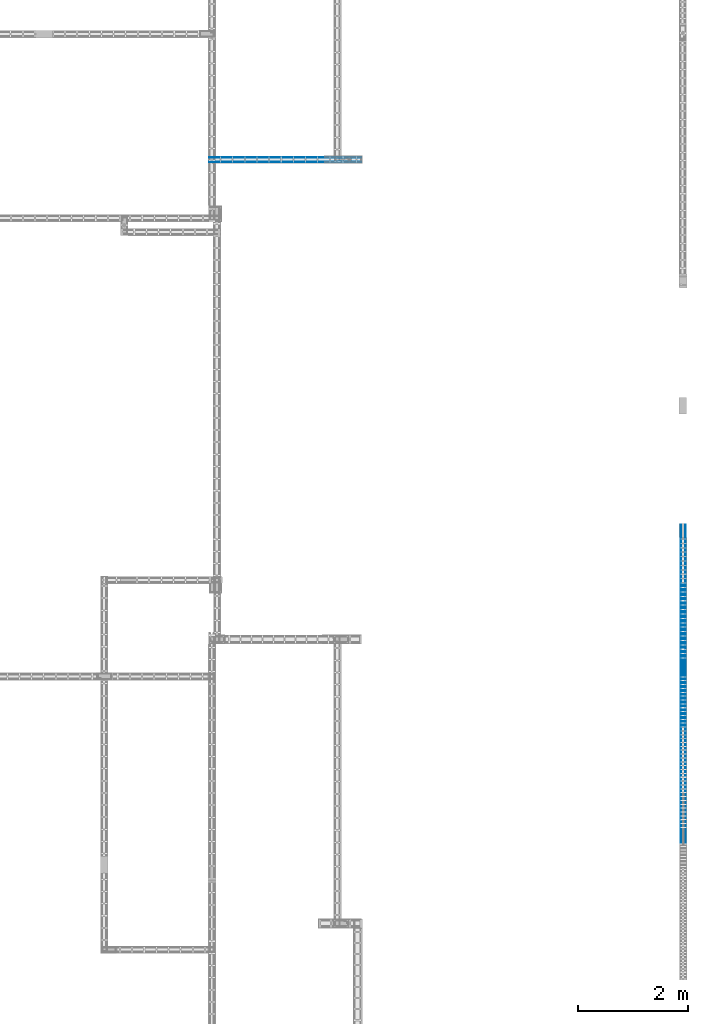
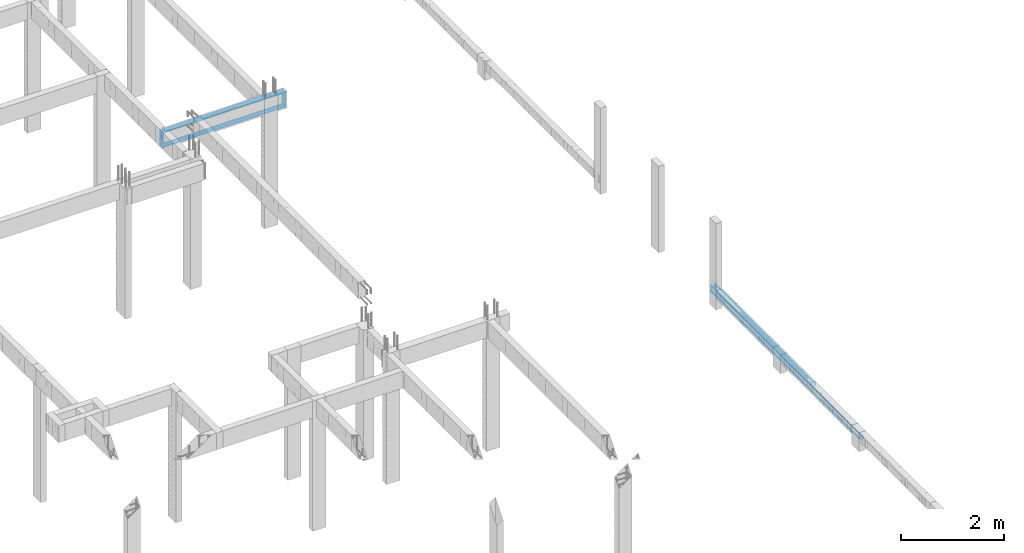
# One storey, part 114 of 236: 11 reinforcing bars.
"""IFC4 building model written with IfcOpenShell, lengths in centimetres."""

from ifc_helpers import new_model, entity, si_unit, derived_unit, frame, origin_with_axes, place, context, project, spatial, element, save


model = new_model("IFC4")

# Units and contexts
model_context = context("Model", 3, precision=1e-05, world=origin_with_axes(), identifier="Body")
ifc_project = project(units=[si_unit("LENGTHUNIT", "METRE", prefix="CENTI"), si_unit("VOLUMEUNIT", "CUBIC_METRE"), si_unit("AREAUNIT", "SQUARE_METRE"), si_unit("POWERUNIT", "WATT"), si_unit("LUMINOUSFLUXUNIT", "LUMEN"), si_unit("ELECTRICCURRENTUNIT", "AMPERE"), si_unit("PRESSUREUNIT", "PASCAL", prefix="KILO"), si_unit("MASSUNIT", "GRAM", prefix="KILO"), si_unit("PLANEANGLEUNIT", "RADIAN"), derived_unit("VOLUMETRICFLOWRATEUNIT", [(si_unit("LENGTHUNIT", "METRE"), 3), (si_unit("TIMEUNIT", "SECOND"), -1)])], contexts=[model_context])

# Site, building, storey
site_placement = place(None, frame((-4000.0, 0.0, 0.0), z_axis=(0.0, 0.0, 1.0), x_axis=(1.0, 0.0, 0.0)))
site = spatial("IfcSite", under=ifc_project, at=site_placement, Name="PADRÃO")
building_placement = place(site_placement, frame((0.0, 0.0, -14.0)))
building = spatial("IfcBuilding", under=site, at=building_placement, Name="CRECHE PRÉ-ESCOLA TIPO 2")
placement_1 = place(building_placement, origin_with_axes())
placement_2 = place(placement_1, frame((0.0, 0.0, 30.0), z_axis=(0.0, 0.0, 1.0), x_axis=(1.0, 0.0, 0.0)))
storey_placement = place(placement_2, frame((0.0, 0.0, 310.0), z_axis=(0.0, 0.0, 1.0), x_axis=(1.0, 0.0, 0.0)))
storey = spatial("IfcBuildingStorey", under=building, at=storey_placement, Name="TERREO", CompositionType="ELEMENT", Elevation=326.0)

# Reinforcing bars
for number, where, z_axis, x_axis, name in (
    (1, (3271.25, 2680.91, -36.7), (0.0, 0.0, 1.0), (1.0, 0.0, 0.0), "V225 - Longitudinal inferior"),
    (2, (3271.25, 2689.11, -36.7), (0.0, 0.0, 1.0), (1.0, 0.0, 0.0), "V225 - Longitudinal inferior"),
):
    element("IfcReinforcingBar", number, at=place(storey_placement, frame(where, z_axis=z_axis, x_axis=x_axis)), inside=storey, Name=name, BarLength=0.0, CrossSectionArea=5.0265482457e-05, NominalDiameter=0.8, PredefinedType="MAIN", context=model_context, shape_type="AdvancedSweptSolid", body=[
        entity("IfcSweptDiskSolid", entity("IfcCompositeCurve", [entity("IfcCompositeCurveSegment", "CONTINUOUS", True, entity("IfcPolyline", [entity("IfcCartesianPoint", [-137.75, 0.0, -0.4]), entity("IfcCartesianPoint", [137.75, 0.0, -0.4])]))], False), 0.4),
    ])
for number, where, z_axis, x_axis, name in (
    (3, (3271.25, 2689.01, -2.49531217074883), (0.0, 0.0, 1.0), (1.0, 0.0, 0.0), "V225 - Longitudinal superior"),
    (4, (3271.25, 2681.01, -2.49531217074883), (0.0, 0.0, 1.0), (1.0, 0.0, 0.0), "V225 - Longitudinal superior"),
):
    element("IfcReinforcingBar", number, at=place(storey_placement, frame(where, z_axis=z_axis, x_axis=x_axis)), inside=storey, Name=name, BarLength=0.0, CrossSectionArea=7.853981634e-05, NominalDiameter=1.0, PredefinedType="MAIN", context=model_context, shape_type="AdvancedSweptSolid", body=[
        entity("IfcSweptDiskSolid", entity("IfcCompositeCurve", [entity("IfcCompositeCurveSegment", "CONTINUOUS", True, entity("IfcPolyline", [entity("IfcCartesianPoint", [-137.25, 0.0, -36.5046878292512]), entity("IfcCartesianPoint", [-137.25, 0.0, -0.504687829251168])])), entity("IfcCompositeCurveSegment", "CONTINUOUS", True, entity("IfcPolyline", [entity("IfcCartesianPoint", [-137.25, 0.0, -0.504687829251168]), entity("IfcCartesianPoint", [137.25, 0.0, -0.504687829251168])])), entity("IfcCompositeCurveSegment", "CONTINUOUS", True, entity("IfcPolyline", [entity("IfcCartesianPoint", [137.25, 0.0, -0.504687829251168]), entity("IfcCartesianPoint", [137.25, 0.0, -36.5046878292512])]))], False), 0.5),
    ])
for number, where, z_axis, x_axis, name in (
    (5, (3997.0, 1876.9313499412, -281.5), (0.0, 0.0, 1.0), (1.0, 0.0, 0.0), "V331 - Longitudinal inferior"),
    (6, (3989.0, 1876.9313499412, -281.5), (0.0, 0.0, 1.0), (1.0, 0.0, 0.0), "V331 - Longitudinal inferior"),
):
    element("IfcReinforcingBar", number, at=place(storey_placement, frame(where, z_axis=z_axis, x_axis=x_axis)), inside=storey, Name=name, BarLength=0.0, CrossSectionArea=7.853981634e-05, NominalDiameter=1.0, PredefinedType="MAIN", context=model_context, shape_type="AdvancedSweptSolid", body=[
        entity("IfcSweptDiskSolid", entity("IfcCompositeCurve", [entity("IfcCompositeCurveSegment", "CONTINUOUS", True, entity("IfcPolyline", [entity("IfcCartesianPoint", [0.0, -146.178650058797, -0.5]), entity("IfcCartesianPoint", [0.0, 146.178650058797, -0.5])]))], False), 0.5),
    ])
for number, where, z_axis, x_axis, name in (
    (7, (3997.1, 1621.94573001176, -281.7), (0.0, 0.0, 1.0), (1.0, 0.0, 0.0), "V331 - Longitudinal inferior"),
    (8, (3988.9, 1621.94573001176, -281.7), (0.0, 0.0, 1.0), (1.0, 0.0, 0.0), "V331 - Longitudinal inferior"),
):
    element("IfcReinforcingBar", number, at=place(storey_placement, frame(where, z_axis=z_axis, x_axis=x_axis)), inside=storey, Name=name, BarLength=0.0, CrossSectionArea=5.0265482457e-05, NominalDiameter=0.8, PredefinedType="MAIN", context=model_context, shape_type="AdvancedSweptSolid", body=[
        entity("IfcSweptDiskSolid", entity("IfcCompositeCurve", [entity("IfcCompositeCurveSegment", "CONTINUOUS", True, entity("IfcPolyline", [entity("IfcCartesianPoint", [0.0, -175.521570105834, -0.4]), entity("IfcCartesianPoint", [0.0, 175.521570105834, -0.4])]))], False), 0.4),
    ])
reinforcing_bar_placement = place(storey_placement, frame((3993.0, 1786.61, -267.5), z_axis=(0.0, 0.0, 1.0), x_axis=(1.0, 0.0, 0.0)))
element("IfcReinforcingBar", 9, at=reinforcing_bar_placement, inside=storey, Name="V331 - Longitudinal superior", BarLength=0.0, CrossSectionArea=5.0265482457e-05, NominalDiameter=0.8, PredefinedType="MAIN", context=model_context, shape_type="AdvancedSweptSolid", body=[
    entity("IfcSweptDiskSolid", entity("IfcCompositeCurve", [entity("IfcCompositeCurveSegment", "CONTINUOUS", True, entity("IfcPolyline", [entity("IfcCartesianPoint", [0.0, -127.5, -0.4]), entity("IfcCartesianPoint", [0.0, 127.5, -0.4])]))], False), 0.4),
])
for number, where, z_axis, x_axis, name in (
    (10, (3997.1, 1828.36460415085, -267.496249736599), (0.0, 0.0, 1.0), (1.0, 0.0, 0.0), "V331 - Longitudinal superior"),
    (11, (3988.9, 1828.36460415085, -267.496249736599), (0.0, 0.0, 1.0), (1.0, 0.0, 0.0), "V331 - Longitudinal superior"),
):
    element("IfcReinforcingBar", number, at=place(storey_placement, frame(where, z_axis=z_axis, x_axis=x_axis)), inside=storey, Name=name, BarLength=0.0, CrossSectionArea=5.0265482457e-05, NominalDiameter=0.8, PredefinedType="MAIN", context=model_context, shape_type="AdvancedSweptSolid", body=[
        entity("IfcSweptDiskSolid", entity("IfcCompositeCurve", [entity("IfcCompositeCurveSegment", "CONTINUOUS", True, entity("IfcPolyline", [entity("IfcCartesianPoint", [0.0, -194.749146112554, -0.403750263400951]), entity("IfcCartesianPoint", [0.0, 194.345395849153, -0.403750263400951])])), entity("IfcCompositeCurveSegment", "CONTINUOUS", True, entity("IfcPolyline", [entity("IfcCartesianPoint", [0.0, 194.345395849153, -0.403750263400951]), entity("IfcCartesianPoint", [0.0, 194.345395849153, -10.403750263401])]))], False), 0.4),
    ])

save(model, "model.ifc")
